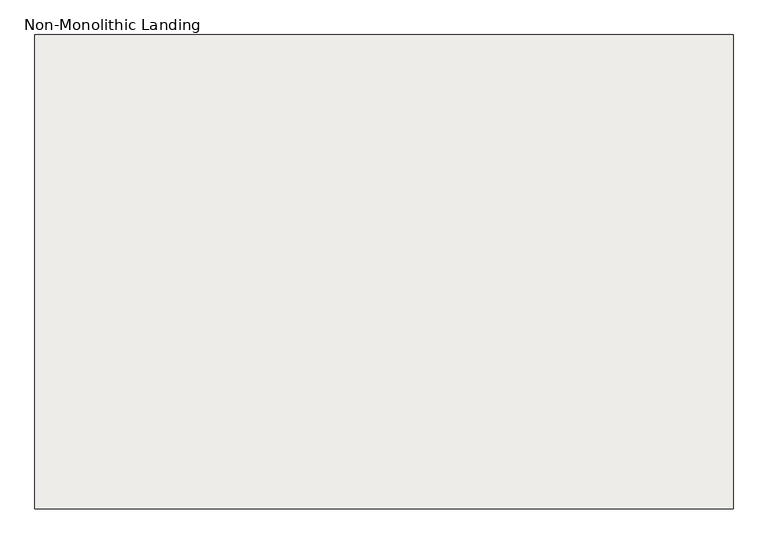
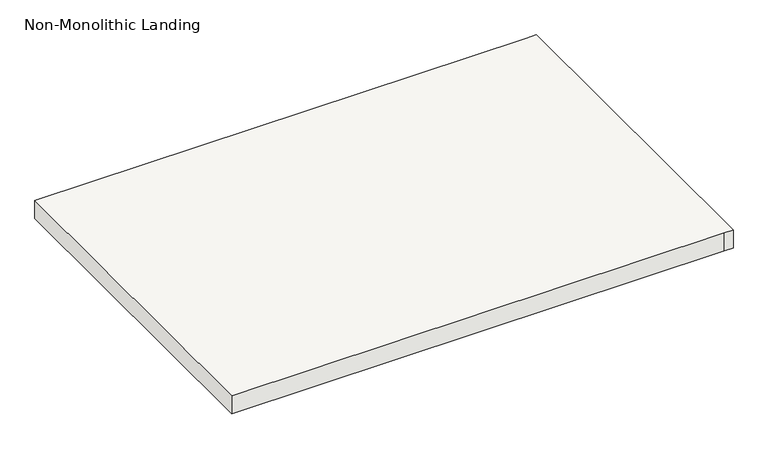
"""IFC4 building model written with IfcOpenShell, lengths in millimetres: slab geometry, Non-Monolithic Landing."""

from ifc_helpers import new_model, si_unit, frame, origin, place, context, project, spatial, polyline, outline, extrude, source, transform, mapped, element, save


def non_monolithic_landing_fefffbc4(model_context):
    return source(origin(), model_context, "Body", "SweptSolid", [
        extrude(outline(polyline([(-20425.042616, 24277.4076385), (-19104.242616, 24277.4076385), (-19078.842616, 24277.4076385), (-19078.842616, 23363.0076385), (-19104.242616, 23363.0076385), (-20425.042616, 23363.0076385), (-20425.042616, 24277.4076385)])), frame((0.0, 0.0, 2126.3428571), z_axis=(0.0, 0.0, 1.0), x_axis=(1.0, 0.0, 0.0)), (0.0, 0.0, 1.0), 50.8),
    ])


if __name__ == "__main__":
    model = new_model("IFC4")
    model_context = context("Model", 3, world=origin())
    ifc_project = project(units=[si_unit("LENGTHUNIT", "METRE", prefix="MILLI")], contexts=[model_context])
    site = spatial("IfcSite", under=ifc_project)
    building = spatial("IfcBuilding", under=site)
    placement = place(None, origin())
    non_monolithic_landing_shape = non_monolithic_landing_fefffbc4(model_context)
    element("IfcSlab", 1, ObjectType="Non-Monolithic Landing", at=placement, inside=building, context=model_context, shape_type="MappedRepresentation", body=[
        mapped(non_monolithic_landing_shape, transform((0.0, 0.0, 0.0), x_axis=(1.0, 0.0, 0.0), y_axis=(0.0, 1.0, 0.0), z_axis=(0.0, 0.0, 1.0))),
    ])
    save(model, "model.ifc")
